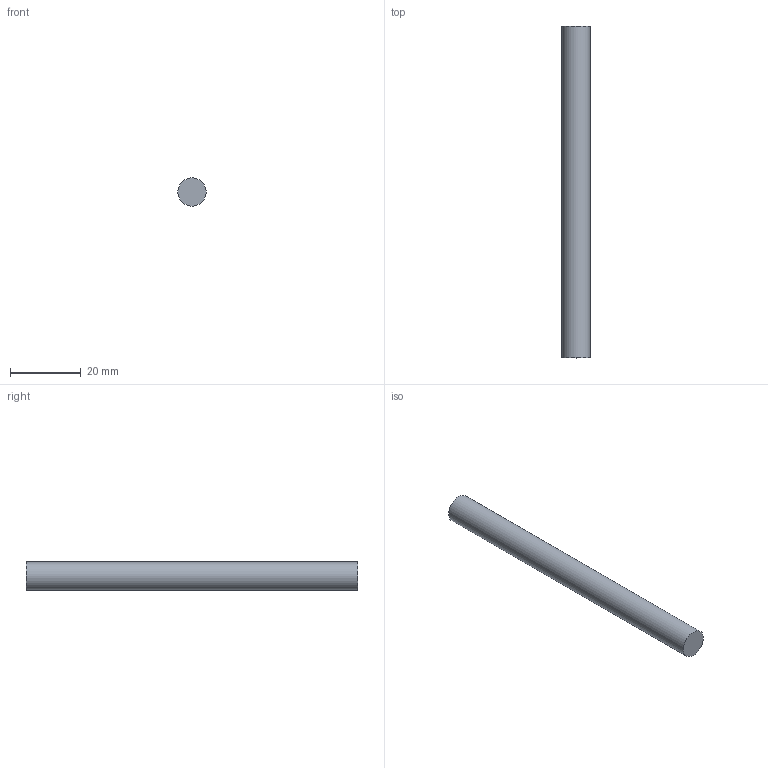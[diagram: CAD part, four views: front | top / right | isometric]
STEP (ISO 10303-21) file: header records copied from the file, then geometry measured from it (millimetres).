
FILE_DESCRIPTION(('Open CASCADE Model'),'2;1');
FILE_NAME('Open CASCADE Shape Model','2026-10-04T02:31:35',('Author'),( 'Open CASCADE'),'Open CASCADE STEP processor 8.0','Open CASCADE 8.0' ,'Unknown');
FILE_SCHEMA(('AUTOMOTIVE_DESIGN { 1 0 10303 214 1 1 1 1 }'));
Length unit declared in the file: millimetre
Products named in the file (1): Open CASCADE STEP translator 8.0 46
Bounding box: 8 x 94 x 8 mm (x, y, z)
Volume: 4725 mm3; surface area: 2463 mm2
Topology: 1 solids, 1 shells, 3 faces, 3 edges, 2 vertices
Faces by surface type: plane 2, cylinder 1
Full cylindrical faces by diameter (mm): 8 x1
Entity records: 108 total; most frequent: DIRECTION 19, CARTESIAN_POINT 15, AXIS2_PLACEMENT_3D 6, ORIENTED_EDGE 6, PCURVE 6, DEFINITIONAL_REPRESENTATION 6, LINE 5, VECTOR 5
